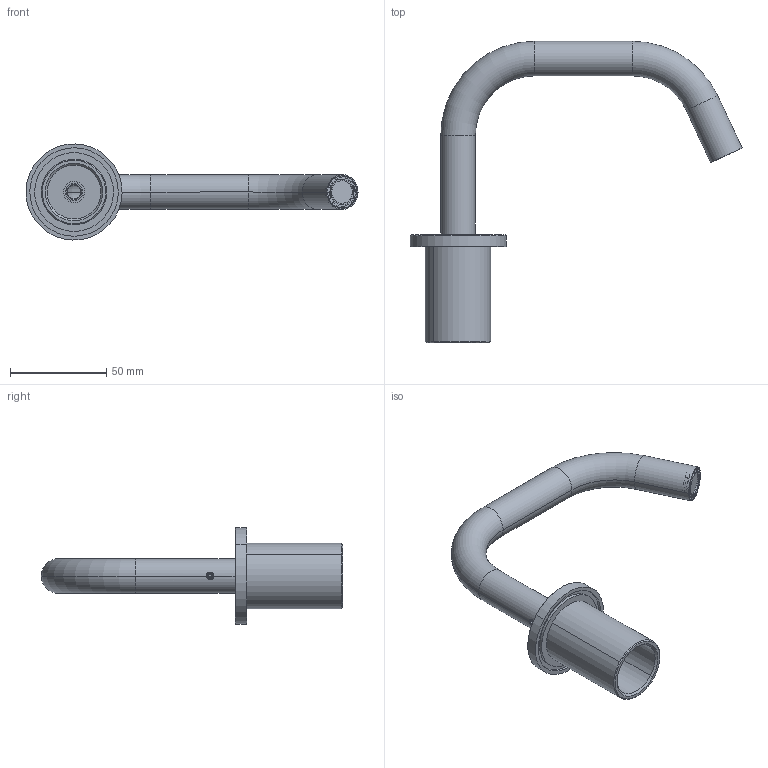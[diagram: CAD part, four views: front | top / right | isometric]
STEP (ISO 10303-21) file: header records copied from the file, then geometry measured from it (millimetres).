
FILE_DESCRIPTION (( 'STEP AP203' ), '1' );
FILE_NAME ('CTO4C.STEP', '2018-05-31T08:48:53', ( '' ), ( '' ), 'SwSTEP 2.0', 'SolidWorks 2014', '' );
FILE_SCHEMA (( 'CONFIG_CONTROL_DESIGN' ));
Length unit declared in the file: millimetre
Products named in the file (10): EU0649_0; OR212ACS; CTO4C; EU1472_0; GRANCO M4x3 ACCIAIO; EU0029_1; AERA161INC; EU0648_1; EU1473_2; OR992262ACS
Assembly tree (11 placements, depth 2):
  CTO4C
    EU0029_1
    OR212ACS
    EU1473_2
    EU1472_0
    EU0648_1
    EU0649_0  x2
    OR992262ACS  x2
    GRANCO M4x3 ACCIAIO
    AERA161INC
Bounding box: 172.68 x 156.77 x 49.98 mm (x, y, z)
Volume: 63728.9 mm3; surface area: 49273.3 mm2
Topology: 11 solids, 11 shells, 353 faces, 778 edges, 472 vertices
Faces by surface type: cylinder 118, plane 103, cone 88, torus 44
Entity records: 10062 total; most frequent: DIRECTION 1712, CARTESIAN_POINT 1665, ORIENTED_EDGE 1396, AXIS2_PLACEMENT_3D 701, EDGE_CURVE 698, VERTEX_POINT 424, CIRCLE 370, EDGE_LOOP 354
